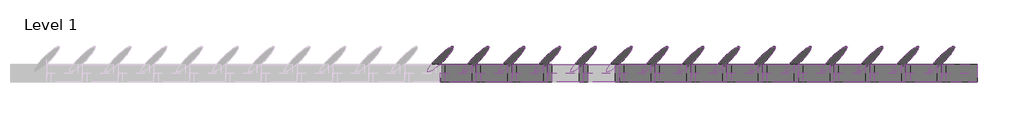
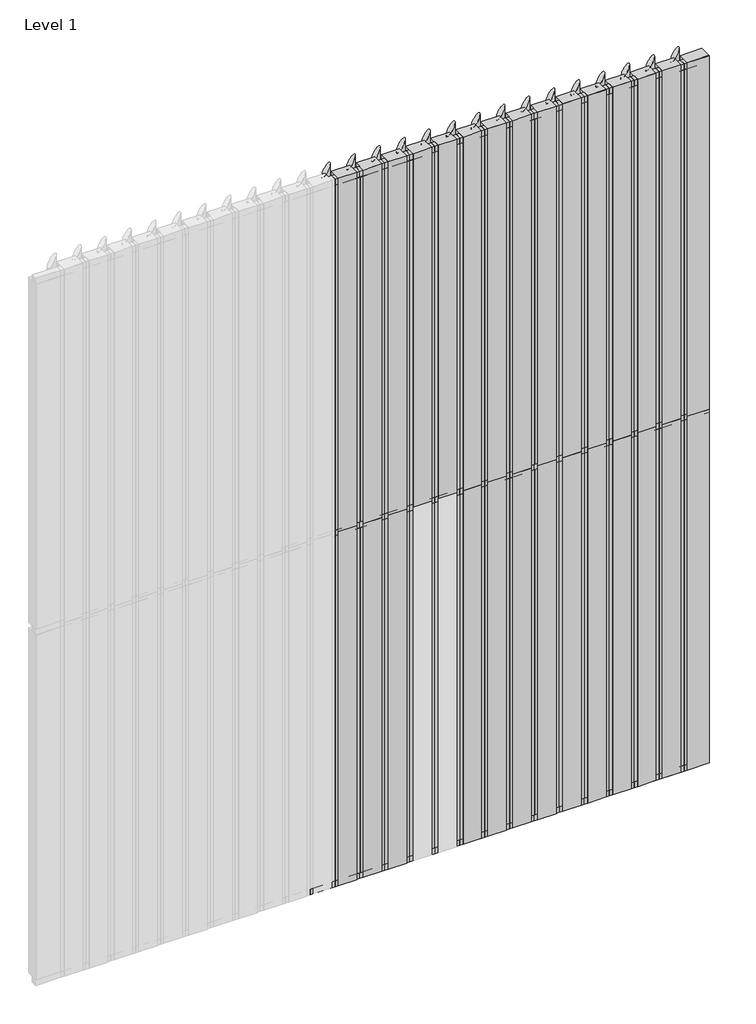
# One storey, part 2 of 2: 76 members, 58 plates.
"""IFC4 building model written with IfcOpenShell, lengths in millimetres."""

from ifc_helpers import new_model, si_unit, origin, place, context, project, spatial, transform, mapped, element, save
from components import rectangular_mullion_0c68277b, rectangular_mullion_614df7cf, rectangular_mullion_a06afc58, rectangular_mullion_7d91d70c, empty_system_panel_empty_aac18751, empty_system_panel_empty_ec074acd, empty_system_panel_empty_763ef950

model = new_model("IFC4")

# Units and contexts
model_context = context("Model", 3, world=origin())
ifc_project = project(units=[si_unit("LENGTHUNIT", "METRE", prefix="MILLI")], contexts=[model_context])

# Site, building, storey
site = spatial("IfcSite", under=ifc_project)
building = spatial("IfcBuilding", under=site)
storey = spatial("IfcBuildingStorey", under=building, Name="Level 1", Elevation=0.0)

# Members
placement = place(None, origin())
rectangular_mullion_shape = rectangular_mullion_0c68277b(model_context)
element("IfcMember", 1, ObjectType="Rectangular Mullion : RSen_21_CWM_blade - 200 ellips - 45°_gen_duco projects", at=placement, inside=storey, context=model_context, shape_type="MappedRepresentation", body=[
    mapped(rectangular_mullion_shape, transform((5800.0, 3000.0, 0.0), x_axis=(-1.0, 0.0, 0.0), y_axis=(0.0, 1.0, 0.0), z_axis=(0.0, 0.0, -1.0))),
])
element("IfcMember", 2, ObjectType="Rectangular Mullion : RSen_21_CWM_blade - 200 ellips - 45°_gen_duco projects", at=placement, inside=storey, context=model_context, shape_type="MappedRepresentation", body=[
    mapped(rectangular_mullion_shape, transform((5600.0, 3000.0, 0.0), x_axis=(-1.0, 0.0, 0.0), y_axis=(0.0, 1.0, 0.0), z_axis=(0.0, 0.0, -1.0))),
])
element("IfcMember", 3, ObjectType="Rectangular Mullion : RSen_21_CWM_blade - 200 ellips - 45°_gen_duco projects", at=placement, inside=storey, context=model_context, shape_type="MappedRepresentation", body=[
    mapped(rectangular_mullion_shape, transform((5400.0, 3000.0, 0.0), x_axis=(-1.0, 0.0, 0.0), y_axis=(0.0, 1.0, 0.0), z_axis=(0.0, 0.0, -1.0))),
])
element("IfcMember", 4, ObjectType="Rectangular Mullion : RSen_21_CWM_blade - 200 ellips - 45°_gen_duco projects", at=placement, inside=storey, context=model_context, shape_type="MappedRepresentation", body=[
    mapped(rectangular_mullion_shape, transform((5200.0, 3000.0, 0.0), x_axis=(-1.0, 0.0, 0.0), y_axis=(0.0, 1.0, 0.0), z_axis=(0.0, 0.0, -1.0))),
])
element("IfcMember", 5, ObjectType="Rectangular Mullion : RSen_21_CWM_blade - 200 ellips - 45°_gen_duco projects", at=placement, inside=storey, context=model_context, shape_type="MappedRepresentation", body=[
    mapped(rectangular_mullion_shape, transform((5000.0, 3000.0, 0.0), x_axis=(-1.0, 0.0, 0.0), y_axis=(0.0, 1.0, 0.0), z_axis=(0.0, 0.0, -1.0))),
])
element("IfcMember", 6, ObjectType="Rectangular Mullion : RSen_21_CWM_blade - 200 ellips - 45°_gen_duco projects", at=placement, inside=storey, context=model_context, shape_type="MappedRepresentation", body=[
    mapped(rectangular_mullion_shape, transform((4800.0, 3000.0, 0.0), x_axis=(-1.0, 0.0, 0.0), y_axis=(0.0, 1.0, 0.0), z_axis=(0.0, 0.0, -1.0))),
])
element("IfcMember", 7, ObjectType="Rectangular Mullion : RSen_21_CWM_blade - 200 ellips - 45°_gen_duco projects", at=placement, inside=storey, context=model_context, shape_type="MappedRepresentation", body=[
    mapped(rectangular_mullion_shape, transform((4600.0, 3000.0, 0.0), x_axis=(-1.0, 0.0, 0.0), y_axis=(0.0, 1.0, 0.0), z_axis=(0.0, 0.0, -1.0))),
])
element("IfcMember", 8, ObjectType="Rectangular Mullion : RSen_21_CWM_blade - 200 ellips - 45°_gen_duco projects", at=placement, inside=storey, context=model_context, shape_type="MappedRepresentation", body=[
    mapped(rectangular_mullion_shape, transform((4400.0, 3000.0, 0.0), x_axis=(-1.0, 0.0, 0.0), y_axis=(0.0, 1.0, 0.0), z_axis=(0.0, 0.0, -1.0))),
])
element("IfcMember", 9, ObjectType="Rectangular Mullion : RSen_21_CWM_blade - 200 ellips - 45°_gen_duco projects", at=placement, inside=storey, context=model_context, shape_type="MappedRepresentation", body=[
    mapped(rectangular_mullion_shape, transform((4200.0, 3000.0, 0.0), x_axis=(-1.0, 0.0, 0.0), y_axis=(0.0, 1.0, 0.0), z_axis=(0.0, 0.0, -1.0))),
])
element("IfcMember", 10, ObjectType="Rectangular Mullion : RSen_21_CWM_blade - 200 ellips - 45°_gen_duco projects", at=placement, inside=storey, context=model_context, shape_type="MappedRepresentation", body=[
    mapped(rectangular_mullion_shape, transform((4000.0, 3000.0, 0.0), x_axis=(-1.0, 0.0, 0.0), y_axis=(0.0, 1.0, 0.0), z_axis=(0.0, 0.0, -1.0))),
])
element("IfcMember", 11, ObjectType="Rectangular Mullion : RSen_21_CWM_blade - 200 ellips - 45°_gen_duco projects", at=placement, inside=storey, context=model_context, shape_type="MappedRepresentation", body=[
    mapped(rectangular_mullion_shape, transform((3800.0, 3000.0, 0.0), x_axis=(-1.0, 0.0, 0.0), y_axis=(0.0, 1.0, 0.0), z_axis=(0.0, 0.0, -1.0))),
])
element("IfcMember", 12, ObjectType="Rectangular Mullion : RSen_21_CWM_blade - 200 ellips - 45°_gen_duco projects", at=placement, inside=storey, context=model_context, shape_type="MappedRepresentation", body=[
    mapped(rectangular_mullion_shape, transform((3600.0, 3000.0, 0.0), x_axis=(-1.0, 0.0, 0.0), y_axis=(0.0, 1.0, 0.0), z_axis=(0.0, 0.0, -1.0))),
])
element("IfcMember", 13, ObjectType="Rectangular Mullion : RSen_21_CWM_blade - 200 ellips - 45°_gen_duco projects", at=placement, inside=storey, context=model_context, shape_type="MappedRepresentation", body=[
    mapped(rectangular_mullion_shape, transform((3400.0, 3000.0, 0.0), x_axis=(-1.0, 0.0, 0.0), y_axis=(0.0, 1.0, 0.0), z_axis=(0.0, 0.0, -1.0))),
])
element("IfcMember", 14, ObjectType="Rectangular Mullion : RSen_21_CWM_blade - 200 ellips - 45°_gen_duco projects", at=placement, inside=storey, context=model_context, shape_type="MappedRepresentation", body=[
    mapped(rectangular_mullion_shape, transform((3200.0, 3000.0, 0.0), x_axis=(-1.0, 0.0, 0.0), y_axis=(0.0, 1.0, 0.0), z_axis=(0.0, 0.0, -1.0))),
])
element("IfcMember", 15, ObjectType="Rectangular Mullion : RSen_21_CWM_blade - 200 ellips - 45°_gen_duco projects", at=placement, inside=storey, context=model_context, shape_type="MappedRepresentation", body=[
    mapped(rectangular_mullion_shape, transform((3000.0, 3000.0, 0.0), x_axis=(-1.0, 0.0, 0.0), y_axis=(0.0, 1.0, 0.0), z_axis=(0.0, 0.0, -1.0))),
])
element("IfcMember", 16, ObjectType="Rectangular Mullion : RSen_21_CWM_blade - 200 ellips - 45°_gen_duco projects", at=placement, inside=storey, context=model_context, shape_type="MappedRepresentation", body=[
    mapped(rectangular_mullion_shape, transform((5800.0, 3000.0, 3000.0), x_axis=(-1.0, 0.0, 0.0), y_axis=(0.0, 1.0, 0.0), z_axis=(0.0, 0.0, -1.0))),
])
element("IfcMember", 17, ObjectType="Rectangular Mullion : RSen_21_CWM_blade - 200 ellips - 45°_gen_duco projects", at=placement, inside=storey, context=model_context, shape_type="MappedRepresentation", body=[
    mapped(rectangular_mullion_shape, transform((5600.0, 3000.0, 3000.0), x_axis=(-1.0, 0.0, 0.0), y_axis=(0.0, 1.0, 0.0), z_axis=(0.0, 0.0, -1.0))),
])
element("IfcMember", 18, ObjectType="Rectangular Mullion : RSen_21_CWM_blade - 200 ellips - 45°_gen_duco projects", at=placement, inside=storey, context=model_context, shape_type="MappedRepresentation", body=[
    mapped(rectangular_mullion_shape, transform((5400.0, 3000.0, 3000.0), x_axis=(-1.0, 0.0, 0.0), y_axis=(0.0, 1.0, 0.0), z_axis=(0.0, 0.0, -1.0))),
])
element("IfcMember", 19, ObjectType="Rectangular Mullion : RSen_21_CWM_blade - 200 ellips - 45°_gen_duco projects", at=placement, inside=storey, context=model_context, shape_type="MappedRepresentation", body=[
    mapped(rectangular_mullion_shape, transform((5200.0, 3000.0, 3000.0), x_axis=(-1.0, 0.0, 0.0), y_axis=(0.0, 1.0, 0.0), z_axis=(0.0, 0.0, -1.0))),
])
element("IfcMember", 20, ObjectType="Rectangular Mullion : RSen_21_CWM_blade - 200 ellips - 45°_gen_duco projects", at=placement, inside=storey, context=model_context, shape_type="MappedRepresentation", body=[
    mapped(rectangular_mullion_shape, transform((5000.0, 3000.0, 3000.0), x_axis=(-1.0, 0.0, 0.0), y_axis=(0.0, 1.0, 0.0), z_axis=(0.0, 0.0, -1.0))),
])
element("IfcMember", 21, ObjectType="Rectangular Mullion : RSen_21_CWM_blade - 200 ellips - 45°_gen_duco projects", at=placement, inside=storey, context=model_context, shape_type="MappedRepresentation", body=[
    mapped(rectangular_mullion_shape, transform((4800.0, 3000.0, 3000.0), x_axis=(-1.0, 0.0, 0.0), y_axis=(0.0, 1.0, 0.0), z_axis=(0.0, 0.0, -1.0))),
])
element("IfcMember", 22, ObjectType="Rectangular Mullion : RSen_21_CWM_blade - 200 ellips - 45°_gen_duco projects", at=placement, inside=storey, context=model_context, shape_type="MappedRepresentation", body=[
    mapped(rectangular_mullion_shape, transform((4600.0, 3000.0, 3000.0), x_axis=(-1.0, 0.0, 0.0), y_axis=(0.0, 1.0, 0.0), z_axis=(0.0, 0.0, -1.0))),
])
element("IfcMember", 23, ObjectType="Rectangular Mullion : RSen_21_CWM_blade - 200 ellips - 45°_gen_duco projects", at=placement, inside=storey, context=model_context, shape_type="MappedRepresentation", body=[
    mapped(rectangular_mullion_shape, transform((4400.0, 3000.0, 3000.0), x_axis=(-1.0, 0.0, 0.0), y_axis=(0.0, 1.0, 0.0), z_axis=(0.0, 0.0, -1.0))),
])
element("IfcMember", 24, ObjectType="Rectangular Mullion : RSen_21_CWM_blade - 200 ellips - 45°_gen_duco projects", at=placement, inside=storey, context=model_context, shape_type="MappedRepresentation", body=[
    mapped(rectangular_mullion_shape, transform((4200.0, 3000.0, 3000.0), x_axis=(-1.0, 0.0, 0.0), y_axis=(0.0, 1.0, 0.0), z_axis=(0.0, 0.0, -1.0))),
])
element("IfcMember", 25, ObjectType="Rectangular Mullion : RSen_21_CWM_blade - 200 ellips - 45°_gen_duco projects", at=placement, inside=storey, context=model_context, shape_type="MappedRepresentation", body=[
    mapped(rectangular_mullion_shape, transform((4000.0, 3000.0, 3000.0), x_axis=(-1.0, 0.0, 0.0), y_axis=(0.0, 1.0, 0.0), z_axis=(0.0, 0.0, -1.0))),
])
element("IfcMember", 26, ObjectType="Rectangular Mullion : RSen_21_CWM_blade - 200 ellips - 45°_gen_duco projects", at=placement, inside=storey, context=model_context, shape_type="MappedRepresentation", body=[
    mapped(rectangular_mullion_shape, transform((3800.0, 3000.0, 3000.0), x_axis=(-1.0, 0.0, 0.0), y_axis=(0.0, 1.0, 0.0), z_axis=(0.0, 0.0, -1.0))),
])
element("IfcMember", 27, ObjectType="Rectangular Mullion : RSen_21_CWM_blade - 200 ellips - 45°_gen_duco projects", at=placement, inside=storey, context=model_context, shape_type="MappedRepresentation", body=[
    mapped(rectangular_mullion_shape, transform((3600.0, 3000.0, 3000.0), x_axis=(-1.0, 0.0, 0.0), y_axis=(0.0, 1.0, 0.0), z_axis=(0.0, 0.0, -1.0))),
])
element("IfcMember", 28, ObjectType="Rectangular Mullion : RSen_21_CWM_blade - 200 ellips - 45°_gen_duco projects", at=placement, inside=storey, context=model_context, shape_type="MappedRepresentation", body=[
    mapped(rectangular_mullion_shape, transform((3400.0, 3000.0, 3000.0), x_axis=(-1.0, 0.0, 0.0), y_axis=(0.0, 1.0, 0.0), z_axis=(0.0, 0.0, -1.0))),
])
element("IfcMember", 29, ObjectType="Rectangular Mullion : RSen_21_CWM_blade - 200 ellips - 45°_gen_duco projects", at=placement, inside=storey, context=model_context, shape_type="MappedRepresentation", body=[
    mapped(rectangular_mullion_shape, transform((3200.0, 3000.0, 3000.0), x_axis=(-1.0, 0.0, 0.0), y_axis=(0.0, 1.0, 0.0), z_axis=(0.0, 0.0, -1.0))),
])
element("IfcMember", 30, ObjectType="Rectangular Mullion : RSen_21_CWM_blade - 200 ellips - 45°_gen_duco projects", at=placement, inside=storey, context=model_context, shape_type="MappedRepresentation", body=[
    mapped(rectangular_mullion_shape, transform((3000.0, 3000.0, 3000.0), x_axis=(-1.0, 0.0, 0.0), y_axis=(0.0, 1.0, 0.0), z_axis=(0.0, 0.0, -1.0))),
])
rectangular_mullion_2_shape = rectangular_mullion_614df7cf(model_context)
element("IfcMember", 31, ObjectType="Rectangular Mullion : RSen_21_CWM_support profile 50x50 - right_gen_duco projects", at=placement, inside=storey, context=model_context, shape_type="MappedRepresentation", body=[
    mapped(rectangular_mullion_2_shape, transform((6000.0, 3000.0, 0.0), x_axis=(0.0, 0.0, -1.0), y_axis=(0.0, 1.0, 0.0), z_axis=(1.0, 0.0, 0.0))),
])
rectangular_mullion_3_shape = rectangular_mullion_a06afc58(model_context)
element("IfcMember", 32, ObjectType="Rectangular Mullion : RSen_21_CWM_support profile 50x50 - left_gen_duco projects", at=placement, inside=storey, context=model_context, shape_type="MappedRepresentation", body=[
    mapped(rectangular_mullion_3_shape, transform((5800.0, 3000.0, 6000.0), x_axis=(0.0, 0.0, 1.0), y_axis=(0.0, 1.0, 0.0), z_axis=(-1.0, 0.0, 0.0))),
])
element("IfcMember", 33, ObjectType="Rectangular Mullion : RSen_21_CWM_support profile 50x50 - left_gen_duco projects", at=placement, inside=storey, context=model_context, shape_type="MappedRepresentation", body=[
    mapped(rectangular_mullion_3_shape, transform((5600.0, 3000.0, 6000.0), x_axis=(0.0, 0.0, 1.0), y_axis=(0.0, 1.0, 0.0), z_axis=(-1.0, 0.0, 0.0))),
])
element("IfcMember", 34, ObjectType="Rectangular Mullion : RSen_21_CWM_support profile 50x50 - left_gen_duco projects", at=placement, inside=storey, context=model_context, shape_type="MappedRepresentation", body=[
    mapped(rectangular_mullion_3_shape, transform((5400.0, 3000.0, 6000.0), x_axis=(0.0, 0.0, 1.0), y_axis=(0.0, 1.0, 0.0), z_axis=(-1.0, 0.0, 0.0))),
])
element("IfcMember", 35, ObjectType="Rectangular Mullion : RSen_21_CWM_support profile 50x50 - left_gen_duco projects", at=placement, inside=storey, context=model_context, shape_type="MappedRepresentation", body=[
    mapped(rectangular_mullion_3_shape, transform((5200.0, 3000.0, 6000.0), x_axis=(0.0, 0.0, 1.0), y_axis=(0.0, 1.0, 0.0), z_axis=(-1.0, 0.0, 0.0))),
])
element("IfcMember", 36, ObjectType="Rectangular Mullion : RSen_21_CWM_support profile 50x50 - left_gen_duco projects", at=placement, inside=storey, context=model_context, shape_type="MappedRepresentation", body=[
    mapped(rectangular_mullion_3_shape, transform((5000.0, 3000.0, 6000.0), x_axis=(0.0, 0.0, 1.0), y_axis=(0.0, 1.0, 0.0), z_axis=(-1.0, 0.0, 0.0))),
])
element("IfcMember", 37, ObjectType="Rectangular Mullion : RSen_21_CWM_support profile 50x50 - left_gen_duco projects", at=placement, inside=storey, context=model_context, shape_type="MappedRepresentation", body=[
    mapped(rectangular_mullion_3_shape, transform((4800.0, 3000.0, 6000.0), x_axis=(0.0, 0.0, 1.0), y_axis=(0.0, 1.0, 0.0), z_axis=(-1.0, 0.0, 0.0))),
])
element("IfcMember", 38, ObjectType="Rectangular Mullion : RSen_21_CWM_support profile 50x50 - left_gen_duco projects", at=placement, inside=storey, context=model_context, shape_type="MappedRepresentation", body=[
    mapped(rectangular_mullion_3_shape, transform((4600.0, 3000.0, 6000.0), x_axis=(0.0, 0.0, 1.0), y_axis=(0.0, 1.0, 0.0), z_axis=(-1.0, 0.0, 0.0))),
])
element("IfcMember", 39, ObjectType="Rectangular Mullion : RSen_21_CWM_support profile 50x50 - left_gen_duco projects", at=placement, inside=storey, context=model_context, shape_type="MappedRepresentation", body=[
    mapped(rectangular_mullion_3_shape, transform((4400.0, 3000.0, 6000.0), x_axis=(0.0, 0.0, 1.0), y_axis=(0.0, 1.0, 0.0), z_axis=(-1.0, 0.0, 0.0))),
])
element("IfcMember", 40, ObjectType="Rectangular Mullion : RSen_21_CWM_support profile 50x50 - left_gen_duco projects", at=placement, inside=storey, context=model_context, shape_type="MappedRepresentation", body=[
    mapped(rectangular_mullion_3_shape, transform((4200.0, 3000.0, 6000.0), x_axis=(0.0, 0.0, 1.0), y_axis=(0.0, 1.0, 0.0), z_axis=(-1.0, 0.0, 0.0))),
])
element("IfcMember", 41, ObjectType="Rectangular Mullion : RSen_21_CWM_support profile 50x50 - left_gen_duco projects", at=placement, inside=storey, context=model_context, shape_type="MappedRepresentation", body=[
    mapped(rectangular_mullion_3_shape, transform((4000.0, 3000.0, 6000.0), x_axis=(0.0, 0.0, 1.0), y_axis=(0.0, 1.0, 0.0), z_axis=(-1.0, 0.0, 0.0))),
])
element("IfcMember", 42, ObjectType="Rectangular Mullion : RSen_21_CWM_support profile 50x50 - left_gen_duco projects", at=placement, inside=storey, context=model_context, shape_type="MappedRepresentation", body=[
    mapped(rectangular_mullion_3_shape, transform((3800.0, 3000.0, 6000.0), x_axis=(0.0, 0.0, 1.0), y_axis=(0.0, 1.0, 0.0), z_axis=(-1.0, 0.0, 0.0))),
])
element("IfcMember", 43, ObjectType="Rectangular Mullion : RSen_21_CWM_support profile 50x50 - left_gen_duco projects", at=placement, inside=storey, context=model_context, shape_type="MappedRepresentation", body=[
    mapped(rectangular_mullion_3_shape, transform((3600.0, 3000.0, 6000.0), x_axis=(0.0, 0.0, 1.0), y_axis=(0.0, 1.0, 0.0), z_axis=(-1.0, 0.0, 0.0))),
])
element("IfcMember", 44, ObjectType="Rectangular Mullion : RSen_21_CWM_support profile 50x50 - left_gen_duco projects", at=placement, inside=storey, context=model_context, shape_type="MappedRepresentation", body=[
    mapped(rectangular_mullion_3_shape, transform((3400.0, 3000.0, 6000.0), x_axis=(0.0, 0.0, 1.0), y_axis=(0.0, 1.0, 0.0), z_axis=(-1.0, 0.0, 0.0))),
])
element("IfcMember", 45, ObjectType="Rectangular Mullion : RSen_21_CWM_support profile 50x50 - left_gen_duco projects", at=placement, inside=storey, context=model_context, shape_type="MappedRepresentation", body=[
    mapped(rectangular_mullion_3_shape, transform((3200.0, 3000.0, 6000.0), x_axis=(0.0, 0.0, 1.0), y_axis=(0.0, 1.0, 0.0), z_axis=(-1.0, 0.0, 0.0))),
])
element("IfcMember", 46, ObjectType="Rectangular Mullion : RSen_21_CWM_support profile 50x50 - left_gen_duco projects", at=placement, inside=storey, context=model_context, shape_type="MappedRepresentation", body=[
    mapped(rectangular_mullion_3_shape, transform((3000.0, 3000.0, 6000.0), x_axis=(0.0, 0.0, 1.0), y_axis=(0.0, 1.0, 0.0), z_axis=(-1.0, 0.0, 0.0))),
])
element("IfcMember", 47, ObjectType="Rectangular Mullion : RSen_21_CWM_support profile 50x50 - right_gen_duco projects", at=placement, inside=storey, context=model_context, shape_type="MappedRepresentation", body=[
    mapped(rectangular_mullion_2_shape, transform((5800.0, 3000.0, 0.0), x_axis=(0.0, 0.0, -1.0), y_axis=(0.0, 1.0, 0.0), z_axis=(1.0, 0.0, 0.0))),
])
element("IfcMember", 48, ObjectType="Rectangular Mullion : RSen_21_CWM_support profile 50x50 - right_gen_duco projects", at=placement, inside=storey, context=model_context, shape_type="MappedRepresentation", body=[
    mapped(rectangular_mullion_2_shape, transform((5600.0, 3000.0, 0.0), x_axis=(0.0, 0.0, -1.0), y_axis=(0.0, 1.0, 0.0), z_axis=(1.0, 0.0, 0.0))),
])
element("IfcMember", 49, ObjectType="Rectangular Mullion : RSen_21_CWM_support profile 50x50 - right_gen_duco projects", at=placement, inside=storey, context=model_context, shape_type="MappedRepresentation", body=[
    mapped(rectangular_mullion_2_shape, transform((5400.0, 3000.0, 0.0), x_axis=(0.0, 0.0, -1.0), y_axis=(0.0, 1.0, 0.0), z_axis=(1.0, 0.0, 0.0))),
])
element("IfcMember", 50, ObjectType="Rectangular Mullion : RSen_21_CWM_support profile 50x50 - right_gen_duco projects", at=placement, inside=storey, context=model_context, shape_type="MappedRepresentation", body=[
    mapped(rectangular_mullion_2_shape, transform((5200.0, 3000.0, 0.0), x_axis=(0.0, 0.0, -1.0), y_axis=(0.0, 1.0, 0.0), z_axis=(1.0, 0.0, 0.0))),
])
element("IfcMember", 51, ObjectType="Rectangular Mullion : RSen_21_CWM_support profile 50x50 - right_gen_duco projects", at=placement, inside=storey, context=model_context, shape_type="MappedRepresentation", body=[
    mapped(rectangular_mullion_2_shape, transform((5000.0, 3000.0, 0.0), x_axis=(0.0, 0.0, -1.0), y_axis=(0.0, 1.0, 0.0), z_axis=(1.0, 0.0, 0.0))),
])
element("IfcMember", 52, ObjectType="Rectangular Mullion : RSen_21_CWM_support profile 50x50 - right_gen_duco projects", at=placement, inside=storey, context=model_context, shape_type="MappedRepresentation", body=[
    mapped(rectangular_mullion_2_shape, transform((4800.0, 3000.0, 0.0), x_axis=(0.0, 0.0, -1.0), y_axis=(0.0, 1.0, 0.0), z_axis=(1.0, 0.0, 0.0))),
])
element("IfcMember", 53, ObjectType="Rectangular Mullion : RSen_21_CWM_support profile 50x50 - right_gen_duco projects", at=placement, inside=storey, context=model_context, shape_type="MappedRepresentation", body=[
    mapped(rectangular_mullion_2_shape, transform((4600.0, 3000.0, 0.0), x_axis=(0.0, 0.0, -1.0), y_axis=(0.0, 1.0, 0.0), z_axis=(1.0, 0.0, 0.0))),
])
element("IfcMember", 54, ObjectType="Rectangular Mullion : RSen_21_CWM_support profile 50x50 - right_gen_duco projects", at=placement, inside=storey, context=model_context, shape_type="MappedRepresentation", body=[
    mapped(rectangular_mullion_2_shape, transform((4400.0, 3000.0, 0.0), x_axis=(0.0, 0.0, -1.0), y_axis=(0.0, 1.0, 0.0), z_axis=(1.0, 0.0, 0.0))),
])
element("IfcMember", 55, ObjectType="Rectangular Mullion : RSen_21_CWM_support profile 50x50 - right_gen_duco projects", at=placement, inside=storey, context=model_context, shape_type="MappedRepresentation", body=[
    mapped(rectangular_mullion_2_shape, transform((4200.0, 3000.0, 0.0), x_axis=(0.0, 0.0, -1.0), y_axis=(0.0, 1.0, 0.0), z_axis=(1.0, 0.0, 0.0))),
])
element("IfcMember", 56, ObjectType="Rectangular Mullion : RSen_21_CWM_support profile 50x50 - right_gen_duco projects", at=placement, inside=storey, context=model_context, shape_type="MappedRepresentation", body=[
    mapped(rectangular_mullion_2_shape, transform((4000.0, 3000.0, 0.0), x_axis=(0.0, 0.0, -1.0), y_axis=(0.0, 1.0, 0.0), z_axis=(1.0, 0.0, 0.0))),
])
element("IfcMember", 57, ObjectType="Rectangular Mullion : RSen_21_CWM_support profile 50x50 - right_gen_duco projects", at=placement, inside=storey, context=model_context, shape_type="MappedRepresentation", body=[
    mapped(rectangular_mullion_2_shape, transform((3800.0, 3000.0, 0.0), x_axis=(0.0, 0.0, -1.0), y_axis=(0.0, 1.0, 0.0), z_axis=(1.0, 0.0, 0.0))),
])
element("IfcMember", 58, ObjectType="Rectangular Mullion : RSen_21_CWM_support profile 50x50 - right_gen_duco projects", at=placement, inside=storey, context=model_context, shape_type="MappedRepresentation", body=[
    mapped(rectangular_mullion_2_shape, transform((3600.0, 3000.0, 0.0), x_axis=(0.0, 0.0, -1.0), y_axis=(0.0, 1.0, 0.0), z_axis=(1.0, 0.0, 0.0))),
])
element("IfcMember", 59, ObjectType="Rectangular Mullion : RSen_21_CWM_support profile 50x50 - right_gen_duco projects", at=placement, inside=storey, context=model_context, shape_type="MappedRepresentation", body=[
    mapped(rectangular_mullion_2_shape, transform((3400.0, 3000.0, 0.0), x_axis=(0.0, 0.0, -1.0), y_axis=(0.0, 1.0, 0.0), z_axis=(1.0, 0.0, 0.0))),
])
element("IfcMember", 60, ObjectType="Rectangular Mullion : RSen_21_CWM_support profile 50x50 - right_gen_duco projects", at=placement, inside=storey, context=model_context, shape_type="MappedRepresentation", body=[
    mapped(rectangular_mullion_2_shape, transform((3200.0, 3000.0, 0.0), x_axis=(0.0, 0.0, -1.0), y_axis=(0.0, 1.0, 0.0), z_axis=(1.0, 0.0, 0.0))),
])
element("IfcMember", 61, ObjectType="Rectangular Mullion : RSen_21_CWM_support profile 50x50 - right_gen_duco projects", at=placement, inside=storey, context=model_context, shape_type="MappedRepresentation", body=[
    mapped(rectangular_mullion_2_shape, transform((3000.0, 3000.0, 0.0), x_axis=(0.0, 0.0, -1.0), y_axis=(0.0, 1.0, 0.0), z_axis=(1.0, 0.0, 0.0))),
])
rectangular_mullion_4_shape = rectangular_mullion_7d91d70c(model_context)
element("IfcMember", 62, ObjectType="Rectangular Mullion : RSen_21_CWM_support profile 50x50_gen_duco projects", at=placement, inside=storey, context=model_context, shape_type="MappedRepresentation", body=[
    mapped(rectangular_mullion_4_shape, transform((5800.0, 3000.0, 3000.0), x_axis=(0.0, 0.0, 1.0), y_axis=(0.0, 1.0, 0.0), z_axis=(-1.0, 0.0, 0.0))),
])
element("IfcMember", 63, ObjectType="Rectangular Mullion : RSen_21_CWM_support profile 50x50_gen_duco projects", at=placement, inside=storey, context=model_context, shape_type="MappedRepresentation", body=[
    mapped(rectangular_mullion_4_shape, transform((5600.0, 3000.0, 3000.0), x_axis=(0.0, 0.0, 1.0), y_axis=(0.0, 1.0, 0.0), z_axis=(-1.0, 0.0, 0.0))),
])
element("IfcMember", 64, ObjectType="Rectangular Mullion : RSen_21_CWM_support profile 50x50_gen_duco projects", at=placement, inside=storey, context=model_context, shape_type="MappedRepresentation", body=[
    mapped(rectangular_mullion_4_shape, transform((5400.0, 3000.0, 3000.0), x_axis=(0.0, 0.0, 1.0), y_axis=(0.0, 1.0, 0.0), z_axis=(-1.0, 0.0, 0.0))),
])
element("IfcMember", 65, ObjectType="Rectangular Mullion : RSen_21_CWM_support profile 50x50_gen_duco projects", at=placement, inside=storey, context=model_context, shape_type="MappedRepresentation", body=[
    mapped(rectangular_mullion_4_shape, transform((5200.0, 3000.0, 3000.0), x_axis=(0.0, 0.0, 1.0), y_axis=(0.0, 1.0, 0.0), z_axis=(-1.0, 0.0, 0.0))),
])
element("IfcMember", 66, ObjectType="Rectangular Mullion : RSen_21_CWM_support profile 50x50_gen_duco projects", at=placement, inside=storey, context=model_context, shape_type="MappedRepresentation", body=[
    mapped(rectangular_mullion_4_shape, transform((5000.0, 3000.0, 3000.0), x_axis=(0.0, 0.0, 1.0), y_axis=(0.0, 1.0, 0.0), z_axis=(-1.0, 0.0, 0.0))),
])
element("IfcMember", 67, ObjectType="Rectangular Mullion : RSen_21_CWM_support profile 50x50_gen_duco projects", at=placement, inside=storey, context=model_context, shape_type="MappedRepresentation", body=[
    mapped(rectangular_mullion_4_shape, transform((4800.0, 3000.0, 3000.0), x_axis=(0.0, 0.0, 1.0), y_axis=(0.0, 1.0, 0.0), z_axis=(-1.0, 0.0, 0.0))),
])
element("IfcMember", 68, ObjectType="Rectangular Mullion : RSen_21_CWM_support profile 50x50_gen_duco projects", at=placement, inside=storey, context=model_context, shape_type="MappedRepresentation", body=[
    mapped(rectangular_mullion_4_shape, transform((4600.0, 3000.0, 3000.0), x_axis=(0.0, 0.0, 1.0), y_axis=(0.0, 1.0, 0.0), z_axis=(-1.0, 0.0, 0.0))),
])
element("IfcMember", 69, ObjectType="Rectangular Mullion : RSen_21_CWM_support profile 50x50_gen_duco projects", at=placement, inside=storey, context=model_context, shape_type="MappedRepresentation", body=[
    mapped(rectangular_mullion_4_shape, transform((4400.0, 3000.0, 3000.0), x_axis=(0.0, 0.0, 1.0), y_axis=(0.0, 1.0, 0.0), z_axis=(-1.0, 0.0, 0.0))),
])
element("IfcMember", 70, ObjectType="Rectangular Mullion : RSen_21_CWM_support profile 50x50_gen_duco projects", at=placement, inside=storey, context=model_context, shape_type="MappedRepresentation", body=[
    mapped(rectangular_mullion_4_shape, transform((4200.0, 3000.0, 3000.0), x_axis=(0.0, 0.0, 1.0), y_axis=(0.0, 1.0, 0.0), z_axis=(-1.0, 0.0, 0.0))),
])
element("IfcMember", 71, ObjectType="Rectangular Mullion : RSen_21_CWM_support profile 50x50_gen_duco projects", at=placement, inside=storey, context=model_context, shape_type="MappedRepresentation", body=[
    mapped(rectangular_mullion_4_shape, transform((4000.0, 3000.0, 3000.0), x_axis=(0.0, 0.0, 1.0), y_axis=(0.0, 1.0, 0.0), z_axis=(-1.0, 0.0, 0.0))),
])
element("IfcMember", 72, ObjectType="Rectangular Mullion : RSen_21_CWM_support profile 50x50_gen_duco projects", at=placement, inside=storey, context=model_context, shape_type="MappedRepresentation", body=[
    mapped(rectangular_mullion_4_shape, transform((3800.0, 3000.0, 3000.0), x_axis=(0.0, 0.0, 1.0), y_axis=(0.0, 1.0, 0.0), z_axis=(-1.0, 0.0, 0.0))),
])
element("IfcMember", 73, ObjectType="Rectangular Mullion : RSen_21_CWM_support profile 50x50_gen_duco projects", at=placement, inside=storey, context=model_context, shape_type="MappedRepresentation", body=[
    mapped(rectangular_mullion_4_shape, transform((3600.0, 3000.0, 3000.0), x_axis=(0.0, 0.0, 1.0), y_axis=(0.0, 1.0, 0.0), z_axis=(-1.0, 0.0, 0.0))),
])
element("IfcMember", 74, ObjectType="Rectangular Mullion : RSen_21_CWM_support profile 50x50_gen_duco projects", at=placement, inside=storey, context=model_context, shape_type="MappedRepresentation", body=[
    mapped(rectangular_mullion_4_shape, transform((3400.0, 3000.0, 3000.0), x_axis=(0.0, 0.0, 1.0), y_axis=(0.0, 1.0, 0.0), z_axis=(-1.0, 0.0, 0.0))),
])
element("IfcMember", 75, ObjectType="Rectangular Mullion : RSen_21_CWM_support profile 50x50_gen_duco projects", at=placement, inside=storey, context=model_context, shape_type="MappedRepresentation", body=[
    mapped(rectangular_mullion_4_shape, transform((3200.0, 3000.0, 3000.0), x_axis=(0.0, 0.0, 1.0), y_axis=(0.0, 1.0, 0.0), z_axis=(-1.0, 0.0, 0.0))),
])
element("IfcMember", 76, ObjectType="Rectangular Mullion : RSen_21_CWM_support profile 50x50_gen_duco projects", at=placement, inside=storey, context=model_context, shape_type="MappedRepresentation", body=[
    mapped(rectangular_mullion_4_shape, transform((3000.0, 3000.0, 3000.0), x_axis=(0.0, 0.0, 1.0), y_axis=(0.0, 1.0, 0.0), z_axis=(-1.0, 0.0, 0.0))),
])

# Plates
empty_system_panel_empty_shape = empty_system_panel_empty_aac18751(model_context)
element("IfcPlate", 77, ObjectType="Empty System Panel : Empty", at=placement, inside=storey, context=model_context, shape_type="MappedRepresentation", body=[
    mapped(empty_system_panel_empty_shape, transform((5913.0814755, 3000.0, 0.0), x_axis=(-1.0, 0.0, 0.0), y_axis=(0.0, -1.0, 0.0), z_axis=(0.0, 0.0, 1.0))),
])
element("IfcPlate", 78, ObjectType="Empty System Panel : Empty", at=placement, inside=storey, context=model_context, shape_type="MappedRepresentation", body=[
    mapped(empty_system_panel_empty_shape, transform((5913.0814755, 3000.0, 3000.0), x_axis=(-1.0, 0.0, 0.0), y_axis=(0.0, -1.0, 0.0), z_axis=(0.0, 0.0, 1.0))),
])
empty_system_panel_empty_2_shape = empty_system_panel_empty_ec074acd(model_context)
element("IfcPlate", 79, ObjectType="Empty System Panel : Empty", at=placement, inside=storey, context=model_context, shape_type="MappedRepresentation", body=[
    mapped(empty_system_panel_empty_2_shape, transform((5700.0, 3000.0, 0.0), x_axis=(-1.0, 0.0, 0.0), y_axis=(0.0, -1.0, 0.0), z_axis=(0.0, 0.0, 1.0))),
])
element("IfcPlate", 80, ObjectType="Empty System Panel : Empty", at=placement, inside=storey, context=model_context, shape_type="MappedRepresentation", body=[
    mapped(empty_system_panel_empty_2_shape, transform((5500.0, 3000.0, 0.0), x_axis=(-1.0, 0.0, 0.0), y_axis=(0.0, -1.0, 0.0), z_axis=(0.0, 0.0, 1.0))),
])
element("IfcPlate", 81, ObjectType="Empty System Panel : Empty", at=placement, inside=storey, context=model_context, shape_type="MappedRepresentation", body=[
    mapped(empty_system_panel_empty_2_shape, transform((5300.0, 3000.0, 0.0), x_axis=(-1.0, 0.0, 0.0), y_axis=(0.0, -1.0, 0.0), z_axis=(0.0, 0.0, 1.0))),
])
element("IfcPlate", 82, ObjectType="Empty System Panel : Empty", at=placement, inside=storey, context=model_context, shape_type="MappedRepresentation", body=[
    mapped(empty_system_panel_empty_2_shape, transform((5100.0, 3000.0, 0.0), x_axis=(-1.0, 0.0, 0.0), y_axis=(0.0, -1.0, 0.0), z_axis=(0.0, 0.0, 1.0))),
])
element("IfcPlate", 83, ObjectType="Empty System Panel : Empty", at=placement, inside=storey, context=model_context, shape_type="MappedRepresentation", body=[
    mapped(empty_system_panel_empty_2_shape, transform((4900.0, 3000.0, 0.0), x_axis=(-1.0, 0.0, 0.0), y_axis=(0.0, -1.0, 0.0), z_axis=(0.0, 0.0, 1.0))),
])
element("IfcPlate", 84, ObjectType="Empty System Panel : Empty", at=placement, inside=storey, context=model_context, shape_type="MappedRepresentation", body=[
    mapped(empty_system_panel_empty_2_shape, transform((4700.0, 3000.0, 0.0), x_axis=(-1.0, 0.0, 0.0), y_axis=(0.0, -1.0, 0.0), z_axis=(0.0, 0.0, 1.0))),
])
element("IfcPlate", 85, ObjectType="Empty System Panel : Empty", at=placement, inside=storey, context=model_context, shape_type="MappedRepresentation", body=[
    mapped(empty_system_panel_empty_2_shape, transform((4500.0, 3000.0, 0.0), x_axis=(-1.0, 0.0, 0.0), y_axis=(0.0, -1.0, 0.0), z_axis=(0.0, 0.0, 1.0))),
])
element("IfcPlate", 86, ObjectType="Empty System Panel : Empty", at=placement, inside=storey, context=model_context, shape_type="MappedRepresentation", body=[
    mapped(empty_system_panel_empty_2_shape, transform((4300.0, 3000.0, 0.0), x_axis=(-1.0, 0.0, 0.0), y_axis=(0.0, -1.0, 0.0), z_axis=(0.0, 0.0, 1.0))),
])
element("IfcPlate", 87, ObjectType="Empty System Panel : Empty", at=placement, inside=storey, context=model_context, shape_type="MappedRepresentation", body=[
    mapped(empty_system_panel_empty_2_shape, transform((4100.0, 3000.0, 0.0), x_axis=(-1.0, 0.0, 0.0), y_axis=(0.0, -1.0, 0.0), z_axis=(0.0, 0.0, 1.0))),
])
element("IfcPlate", 88, ObjectType="Empty System Panel : Empty", at=placement, inside=storey, context=model_context, shape_type="MappedRepresentation", body=[
    mapped(empty_system_panel_empty_2_shape, transform((3500.0, 3000.0, 0.0), x_axis=(-1.0, 0.0, 0.0), y_axis=(0.0, -1.0, 0.0), z_axis=(0.0, 0.0, 1.0))),
])
element("IfcPlate", 89, ObjectType="Empty System Panel : Empty", at=placement, inside=storey, context=model_context, shape_type="MappedRepresentation", body=[
    mapped(empty_system_panel_empty_2_shape, transform((3300.0, 3000.0, 0.0), x_axis=(-1.0, 0.0, 0.0), y_axis=(0.0, -1.0, 0.0), z_axis=(0.0, 0.0, 1.0))),
])
element("IfcPlate", 90, ObjectType="Empty System Panel : Empty", at=placement, inside=storey, context=model_context, shape_type="MappedRepresentation", body=[
    mapped(empty_system_panel_empty_2_shape, transform((3100.0, 3000.0, 0.0), x_axis=(-1.0, 0.0, 0.0), y_axis=(0.0, -1.0, 0.0), z_axis=(0.0, 0.0, 1.0))),
])
element("IfcPlate", 91, ObjectType="Empty System Panel : Empty", at=placement, inside=storey, context=model_context, shape_type="MappedRepresentation", body=[
    mapped(empty_system_panel_empty_2_shape, transform((5700.0, 3000.0, 3000.0), x_axis=(-1.0, 0.0, 0.0), y_axis=(0.0, -1.0, 0.0), z_axis=(0.0, 0.0, 1.0))),
])
element("IfcPlate", 92, ObjectType="Empty System Panel : Empty", at=placement, inside=storey, context=model_context, shape_type="MappedRepresentation", body=[
    mapped(empty_system_panel_empty_2_shape, transform((5500.0, 3000.0, 3000.0), x_axis=(-1.0, 0.0, 0.0), y_axis=(0.0, -1.0, 0.0), z_axis=(0.0, 0.0, 1.0))),
])
element("IfcPlate", 93, ObjectType="Empty System Panel : Empty", at=placement, inside=storey, context=model_context, shape_type="MappedRepresentation", body=[
    mapped(empty_system_panel_empty_2_shape, transform((5300.0, 3000.0, 3000.0), x_axis=(-1.0, 0.0, 0.0), y_axis=(0.0, -1.0, 0.0), z_axis=(0.0, 0.0, 1.0))),
])
element("IfcPlate", 94, ObjectType="Empty System Panel : Empty", at=placement, inside=storey, context=model_context, shape_type="MappedRepresentation", body=[
    mapped(empty_system_panel_empty_2_shape, transform((5100.0, 3000.0, 3000.0), x_axis=(-1.0, 0.0, 0.0), y_axis=(0.0, -1.0, 0.0), z_axis=(0.0, 0.0, 1.0))),
])
element("IfcPlate", 95, ObjectType="Empty System Panel : Empty", at=placement, inside=storey, context=model_context, shape_type="MappedRepresentation", body=[
    mapped(empty_system_panel_empty_2_shape, transform((4900.0, 3000.0, 3000.0), x_axis=(-1.0, 0.0, 0.0), y_axis=(0.0, -1.0, 0.0), z_axis=(0.0, 0.0, 1.0))),
])
element("IfcPlate", 96, ObjectType="Empty System Panel : Empty", at=placement, inside=storey, context=model_context, shape_type="MappedRepresentation", body=[
    mapped(empty_system_panel_empty_2_shape, transform((4700.0, 3000.0, 3000.0), x_axis=(-1.0, 0.0, 0.0), y_axis=(0.0, -1.0, 0.0), z_axis=(0.0, 0.0, 1.0))),
])
element("IfcPlate", 97, ObjectType="Empty System Panel : Empty", at=placement, inside=storey, context=model_context, shape_type="MappedRepresentation", body=[
    mapped(empty_system_panel_empty_2_shape, transform((4500.0, 3000.0, 3000.0), x_axis=(-1.0, 0.0, 0.0), y_axis=(0.0, -1.0, 0.0), z_axis=(0.0, 0.0, 1.0))),
])
element("IfcPlate", 98, ObjectType="Empty System Panel : Empty", at=placement, inside=storey, context=model_context, shape_type="MappedRepresentation", body=[
    mapped(empty_system_panel_empty_2_shape, transform((4300.0, 3000.0, 3000.0), x_axis=(-1.0, 0.0, 0.0), y_axis=(0.0, -1.0, 0.0), z_axis=(0.0, 0.0, 1.0))),
])
element("IfcPlate", 99, ObjectType="Empty System Panel : Empty", at=placement, inside=storey, context=model_context, shape_type="MappedRepresentation", body=[
    mapped(empty_system_panel_empty_2_shape, transform((4100.0, 3000.0, 3000.0), x_axis=(-1.0, 0.0, 0.0), y_axis=(0.0, -1.0, 0.0), z_axis=(0.0, 0.0, 1.0))),
])
element("IfcPlate", 100, ObjectType="Empty System Panel : Empty", at=placement, inside=storey, context=model_context, shape_type="MappedRepresentation", body=[
    mapped(empty_system_panel_empty_2_shape, transform((3900.0, 3000.0, 3000.0), x_axis=(-1.0, 0.0, 0.0), y_axis=(0.0, -1.0, 0.0), z_axis=(0.0, 0.0, 1.0))),
])
element("IfcPlate", 101, ObjectType="Empty System Panel : Empty", at=placement, inside=storey, context=model_context, shape_type="MappedRepresentation", body=[
    mapped(empty_system_panel_empty_2_shape, transform((3700.0, 3000.0, 3000.0), x_axis=(-1.0, 0.0, 0.0), y_axis=(0.0, -1.0, 0.0), z_axis=(0.0, 0.0, 1.0))),
])
element("IfcPlate", 102, ObjectType="Empty System Panel : Empty", at=placement, inside=storey, context=model_context, shape_type="MappedRepresentation", body=[
    mapped(empty_system_panel_empty_2_shape, transform((3500.0, 3000.0, 3000.0), x_axis=(-1.0, 0.0, 0.0), y_axis=(0.0, -1.0, 0.0), z_axis=(0.0, 0.0, 1.0))),
])
element("IfcPlate", 103, ObjectType="Empty System Panel : Empty", at=placement, inside=storey, context=model_context, shape_type="MappedRepresentation", body=[
    mapped(empty_system_panel_empty_2_shape, transform((3300.0, 3000.0, 3000.0), x_axis=(-1.0, 0.0, 0.0), y_axis=(0.0, -1.0, 0.0), z_axis=(0.0, 0.0, 1.0))),
])
element("IfcPlate", 104, ObjectType="Empty System Panel : Empty", at=placement, inside=storey, context=model_context, shape_type="MappedRepresentation", body=[
    mapped(empty_system_panel_empty_2_shape, transform((3100.0, 3000.0, 3000.0), x_axis=(-1.0, 0.0, 0.0), y_axis=(0.0, -1.0, 0.0), z_axis=(0.0, 0.0, 1.0))),
])
empty_system_panel_empty_3_shape = empty_system_panel_empty_763ef950(model_context)
element("IfcPlate", 105, ObjectType="Empty System Panel : Empty", at=placement, inside=storey, context=model_context, shape_type="MappedRepresentation", body=[
    mapped(empty_system_panel_empty_3_shape, transform((5900.0, 3000.0, 50.0), x_axis=(-1.0, 0.0, 0.0), y_axis=(0.0, -1.0, 0.0), z_axis=(0.0, 0.0, 1.0))),
])
element("IfcPlate", 106, ObjectType="Empty System Panel : Empty", at=placement, inside=storey, context=model_context, shape_type="MappedRepresentation", body=[
    mapped(empty_system_panel_empty_3_shape, transform((5700.0, 3000.0, 50.0), x_axis=(-1.0, 0.0, 0.0), y_axis=(0.0, -1.0, 0.0), z_axis=(0.0, 0.0, 1.0))),
])
element("IfcPlate", 107, ObjectType="Empty System Panel : Empty", at=placement, inside=storey, context=model_context, shape_type="MappedRepresentation", body=[
    mapped(empty_system_panel_empty_3_shape, transform((5500.0, 3000.0, 50.0), x_axis=(-1.0, 0.0, 0.0), y_axis=(0.0, -1.0, 0.0), z_axis=(0.0, 0.0, 1.0))),
])
element("IfcPlate", 108, ObjectType="Empty System Panel : Empty", at=placement, inside=storey, context=model_context, shape_type="MappedRepresentation", body=[
    mapped(empty_system_panel_empty_3_shape, transform((5300.0, 3000.0, 50.0), x_axis=(-1.0, 0.0, 0.0), y_axis=(0.0, -1.0, 0.0), z_axis=(0.0, 0.0, 1.0))),
])
element("IfcPlate", 109, ObjectType="Empty System Panel : Empty", at=placement, inside=storey, context=model_context, shape_type="MappedRepresentation", body=[
    mapped(empty_system_panel_empty_3_shape, transform((5100.0, 3000.0, 50.0), x_axis=(-1.0, 0.0, 0.0), y_axis=(0.0, -1.0, 0.0), z_axis=(0.0, 0.0, 1.0))),
])
element("IfcPlate", 110, ObjectType="Empty System Panel : Empty", at=placement, inside=storey, context=model_context, shape_type="MappedRepresentation", body=[
    mapped(empty_system_panel_empty_3_shape, transform((4900.0, 3000.0, 50.0), x_axis=(-1.0, 0.0, 0.0), y_axis=(0.0, -1.0, 0.0), z_axis=(0.0, 0.0, 1.0))),
])
element("IfcPlate", 111, ObjectType="Empty System Panel : Empty", at=placement, inside=storey, context=model_context, shape_type="MappedRepresentation", body=[
    mapped(empty_system_panel_empty_3_shape, transform((4700.0, 3000.0, 50.0), x_axis=(-1.0, 0.0, 0.0), y_axis=(0.0, -1.0, 0.0), z_axis=(0.0, 0.0, 1.0))),
])
element("IfcPlate", 112, ObjectType="Empty System Panel : Empty", at=placement, inside=storey, context=model_context, shape_type="MappedRepresentation", body=[
    mapped(empty_system_panel_empty_3_shape, transform((4500.0, 3000.0, 50.0), x_axis=(-1.0, 0.0, 0.0), y_axis=(0.0, -1.0, 0.0), z_axis=(0.0, 0.0, 1.0))),
])
element("IfcPlate", 113, ObjectType="Empty System Panel : Empty", at=placement, inside=storey, context=model_context, shape_type="MappedRepresentation", body=[
    mapped(empty_system_panel_empty_3_shape, transform((4300.0, 3000.0, 50.0), x_axis=(-1.0, 0.0, 0.0), y_axis=(0.0, -1.0, 0.0), z_axis=(0.0, 0.0, 1.0))),
])
element("IfcPlate", 114, ObjectType="Empty System Panel : Empty", at=placement, inside=storey, context=model_context, shape_type="MappedRepresentation", body=[
    mapped(empty_system_panel_empty_3_shape, transform((4100.0, 3000.0, 50.0), x_axis=(-1.0, 0.0, 0.0), y_axis=(0.0, -1.0, 0.0), z_axis=(0.0, 0.0, 1.0))),
])
element("IfcPlate", 115, ObjectType="Empty System Panel : Empty", at=placement, inside=storey, context=model_context, shape_type="MappedRepresentation", body=[
    mapped(empty_system_panel_empty_3_shape, transform((3900.0, 3000.0, 50.0), x_axis=(-1.0, 0.0, 0.0), y_axis=(0.0, -1.0, 0.0), z_axis=(0.0, 0.0, 1.0))),
])
element("IfcPlate", 116, ObjectType="Empty System Panel : Empty", at=placement, inside=storey, context=model_context, shape_type="MappedRepresentation", body=[
    mapped(empty_system_panel_empty_3_shape, transform((3700.0, 3000.0, 50.0), x_axis=(-1.0, 0.0, 0.0), y_axis=(0.0, -1.0, 0.0), z_axis=(0.0, 0.0, 1.0))),
])
element("IfcPlate", 117, ObjectType="Empty System Panel : Empty", at=placement, inside=storey, context=model_context, shape_type="MappedRepresentation", body=[
    mapped(empty_system_panel_empty_3_shape, transform((3500.0, 3000.0, 50.0), x_axis=(-1.0, 0.0, 0.0), y_axis=(0.0, -1.0, 0.0), z_axis=(0.0, 0.0, 1.0))),
])
element("IfcPlate", 118, ObjectType="Empty System Panel : Empty", at=placement, inside=storey, context=model_context, shape_type="MappedRepresentation", body=[
    mapped(empty_system_panel_empty_3_shape, transform((3300.0, 3000.0, 50.0), x_axis=(-1.0, 0.0, 0.0), y_axis=(0.0, -1.0, 0.0), z_axis=(0.0, 0.0, 1.0))),
])
element("IfcPlate", 119, ObjectType="Empty System Panel : Empty", at=placement, inside=storey, context=model_context, shape_type="MappedRepresentation", body=[
    mapped(empty_system_panel_empty_3_shape, transform((3100.0, 3000.0, 50.0), x_axis=(-1.0, 0.0, 0.0), y_axis=(0.0, -1.0, 0.0), z_axis=(0.0, 0.0, 1.0))),
])
element("IfcPlate", 120, ObjectType="Empty System Panel : Empty", at=placement, inside=storey, context=model_context, shape_type="MappedRepresentation", body=[
    mapped(empty_system_panel_empty_3_shape, transform((5900.0, 3000.0, 3025.0), x_axis=(-1.0, 0.0, 0.0), y_axis=(0.0, -1.0, 0.0), z_axis=(0.0, 0.0, 1.0))),
])
element("IfcPlate", 121, ObjectType="Empty System Panel : Empty", at=placement, inside=storey, context=model_context, shape_type="MappedRepresentation", body=[
    mapped(empty_system_panel_empty_3_shape, transform((5700.0, 3000.0, 3025.0), x_axis=(-1.0, 0.0, 0.0), y_axis=(0.0, -1.0, 0.0), z_axis=(0.0, 0.0, 1.0))),
])
element("IfcPlate", 122, ObjectType="Empty System Panel : Empty", at=placement, inside=storey, context=model_context, shape_type="MappedRepresentation", body=[
    mapped(empty_system_panel_empty_3_shape, transform((5500.0, 3000.0, 3025.0), x_axis=(-1.0, 0.0, 0.0), y_axis=(0.0, -1.0, 0.0), z_axis=(0.0, 0.0, 1.0))),
])
element("IfcPlate", 123, ObjectType="Empty System Panel : Empty", at=placement, inside=storey, context=model_context, shape_type="MappedRepresentation", body=[
    mapped(empty_system_panel_empty_3_shape, transform((5300.0, 3000.0, 3025.0), x_axis=(-1.0, 0.0, 0.0), y_axis=(0.0, -1.0, 0.0), z_axis=(0.0, 0.0, 1.0))),
])
element("IfcPlate", 124, ObjectType="Empty System Panel : Empty", at=placement, inside=storey, context=model_context, shape_type="MappedRepresentation", body=[
    mapped(empty_system_panel_empty_3_shape, transform((5100.0, 3000.0, 3025.0), x_axis=(-1.0, 0.0, 0.0), y_axis=(0.0, -1.0, 0.0), z_axis=(0.0, 0.0, 1.0))),
])
element("IfcPlate", 125, ObjectType="Empty System Panel : Empty", at=placement, inside=storey, context=model_context, shape_type="MappedRepresentation", body=[
    mapped(empty_system_panel_empty_3_shape, transform((4900.0, 3000.0, 3025.0), x_axis=(-1.0, 0.0, 0.0), y_axis=(0.0, -1.0, 0.0), z_axis=(0.0, 0.0, 1.0))),
])
element("IfcPlate", 126, ObjectType="Empty System Panel : Empty", at=placement, inside=storey, context=model_context, shape_type="MappedRepresentation", body=[
    mapped(empty_system_panel_empty_3_shape, transform((4700.0, 3000.0, 3025.0), x_axis=(-1.0, 0.0, 0.0), y_axis=(0.0, -1.0, 0.0), z_axis=(0.0, 0.0, 1.0))),
])
element("IfcPlate", 127, ObjectType="Empty System Panel : Empty", at=placement, inside=storey, context=model_context, shape_type="MappedRepresentation", body=[
    mapped(empty_system_panel_empty_3_shape, transform((4500.0, 3000.0, 3025.0), x_axis=(-1.0, 0.0, 0.0), y_axis=(0.0, -1.0, 0.0), z_axis=(0.0, 0.0, 1.0))),
])
element("IfcPlate", 128, ObjectType="Empty System Panel : Empty", at=placement, inside=storey, context=model_context, shape_type="MappedRepresentation", body=[
    mapped(empty_system_panel_empty_3_shape, transform((4300.0, 3000.0, 3025.0), x_axis=(-1.0, 0.0, 0.0), y_axis=(0.0, -1.0, 0.0), z_axis=(0.0, 0.0, 1.0))),
])
element("IfcPlate", 129, ObjectType="Empty System Panel : Empty", at=placement, inside=storey, context=model_context, shape_type="MappedRepresentation", body=[
    mapped(empty_system_panel_empty_3_shape, transform((4100.0, 3000.0, 3025.0), x_axis=(-1.0, 0.0, 0.0), y_axis=(0.0, -1.0, 0.0), z_axis=(0.0, 0.0, 1.0))),
])
element("IfcPlate", 130, ObjectType="Empty System Panel : Empty", at=placement, inside=storey, context=model_context, shape_type="MappedRepresentation", body=[
    mapped(empty_system_panel_empty_3_shape, transform((3900.0, 3000.0, 3025.0), x_axis=(-1.0, 0.0, 0.0), y_axis=(0.0, -1.0, 0.0), z_axis=(0.0, 0.0, 1.0))),
])
element("IfcPlate", 131, ObjectType="Empty System Panel : Empty", at=placement, inside=storey, context=model_context, shape_type="MappedRepresentation", body=[
    mapped(empty_system_panel_empty_3_shape, transform((3700.0, 3000.0, 3025.0), x_axis=(-1.0, 0.0, 0.0), y_axis=(0.0, -1.0, 0.0), z_axis=(0.0, 0.0, 1.0))),
])
element("IfcPlate", 132, ObjectType="Empty System Panel : Empty", at=placement, inside=storey, context=model_context, shape_type="MappedRepresentation", body=[
    mapped(empty_system_panel_empty_3_shape, transform((3500.0, 3000.0, 3025.0), x_axis=(-1.0, 0.0, 0.0), y_axis=(0.0, -1.0, 0.0), z_axis=(0.0, 0.0, 1.0))),
])
element("IfcPlate", 133, ObjectType="Empty System Panel : Empty", at=placement, inside=storey, context=model_context, shape_type="MappedRepresentation", body=[
    mapped(empty_system_panel_empty_3_shape, transform((3300.0, 3000.0, 3025.0), x_axis=(-1.0, 0.0, 0.0), y_axis=(0.0, -1.0, 0.0), z_axis=(0.0, 0.0, 1.0))),
])
element("IfcPlate", 134, ObjectType="Empty System Panel : Empty", at=placement, inside=storey, context=model_context, shape_type="MappedRepresentation", body=[
    mapped(empty_system_panel_empty_3_shape, transform((3100.0, 3000.0, 3025.0), x_axis=(-1.0, 0.0, 0.0), y_axis=(0.0, -1.0, 0.0), z_axis=(0.0, 0.0, 1.0))),
])

save(model, "model.ifc")
